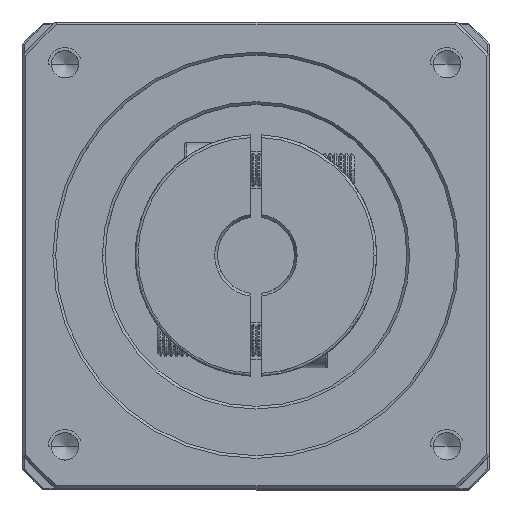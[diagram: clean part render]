
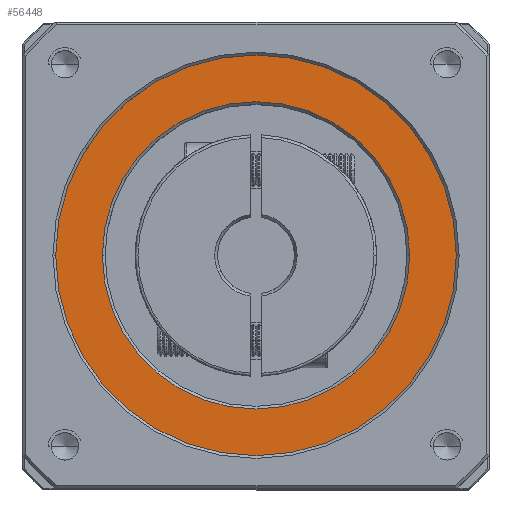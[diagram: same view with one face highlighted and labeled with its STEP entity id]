
A CAD part, top view. The second image highlights one B-rep face of the part: STEP entity #56448.
In plain terms, the highlighted planar face has unit normal (0, 0, 1).
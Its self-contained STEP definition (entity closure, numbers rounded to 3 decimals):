
#2205 = EDGE_LOOP ( 'NONE', ( #43949, #49746 ) ) ;
#4005 = VERTEX_POINT ( 'NONE', #27573 ) ;
#4152 = AXIS2_PLACEMENT_3D ( 'NONE', #48968, #109574, #57785 ) ;
#9014 = EDGE_LOOP ( 'NONE', ( #78474, #110691 ) ) ;
#11558 = EDGE_CURVE ( 'NONE', #4005, #73613, #16682, .T. ) ;
#16682 = CIRCLE ( 'NONE', #100747, 28. ) ;
#17385 = CARTESIAN_POINT ( 'NONE',  ( 45.088, 7.351, 102.5 ) ) ;
#25120 = CIRCLE ( 'NONE', #47801, 28. ) ;
#26186 = DIRECTION ( 'NONE',  ( 1., 0., 0. ) ) ;
#27573 = CARTESIAN_POINT ( 'NONE',  ( 17.088, 7.351, 102.5 ) ) ;
#28977 = FACE_BOUND ( 'NONE', #9014, .T. ) ;
#31882 = CARTESIAN_POINT ( 'NONE',  ( 45.088, 7.351, 102.5 ) ) ;
#31931 = EDGE_CURVE ( 'NONE', #73613, #4005, #25120, .T. ) ;
#33531 = CIRCLE ( 'NONE', #61595, 36.5 ) ;
#34884 = CARTESIAN_POINT ( 'NONE',  ( 45.088, 7.351, 102.5 ) ) ;
#38275 = DIRECTION ( 'NONE',  ( 0., 0., 1. ) ) ;
#40614 = DIRECTION ( 'NONE',  ( 1., 0., 0. ) ) ;
#40952 = EDGE_CURVE ( 'NONE', #91878, #92353, #33531, .T. ) ;
#43621 = DIRECTION ( 'NONE',  ( 1., 0., 0. ) ) ;
#43949 = ORIENTED_EDGE ( 'NONE', *, *, #64201, .T. ) ;
#47801 = AXIS2_PLACEMENT_3D ( 'NONE', #17385, #78369, #26186 ) ;
#48968 = CARTESIAN_POINT ( 'NONE',  ( 45.088, 7.351, 102.5 ) ) ;
#49746 = ORIENTED_EDGE ( 'NONE', *, *, #40952, .T. ) ;
#52120 = FACE_OUTER_BOUND ( 'NONE', #2205, .T. ) ;
#56448 = ADVANCED_FACE ( 'NONE', ( #52120, #28977 ), #63826, .T. ) ;
#57785 = DIRECTION ( 'NONE',  ( 1., 0., 0. ) ) ;
#61595 = AXIS2_PLACEMENT_3D ( 'NONE', #31882, #92674, #40614 ) ;
#63826 = PLANE ( 'NONE',  #84317 ) ;
#64201 = EDGE_CURVE ( 'NONE', #92353, #91878, #95488, .T. ) ;
#73613 = VERTEX_POINT ( 'NONE', #109789 ) ;
#78369 = DIRECTION ( 'NONE',  ( 0., 0., -1. ) ) ;
#78474 = ORIENTED_EDGE ( 'NONE', *, *, #31931, .T. ) ;
#84317 = AXIS2_PLACEMENT_3D ( 'NONE', #90383, #38275, #99061 ) ;
#90383 = CARTESIAN_POINT ( 'NONE',  ( 45.088, 7.351, 102.5 ) ) ;
#91878 = VERTEX_POINT ( 'NONE', #101777 ) ;
#92353 = VERTEX_POINT ( 'NONE', #99808 ) ;
#92674 = DIRECTION ( 'NONE',  ( 0., 0., 1. ) ) ;
#95488 = CIRCLE ( 'NONE', #4152, 36.5 ) ;
#95636 = DIRECTION ( 'NONE',  ( 0., 0., -1. ) ) ;
#99061 = DIRECTION ( 'NONE',  ( 1., 0., 0. ) ) ;
#99808 = CARTESIAN_POINT ( 'NONE',  ( 81.588, 7.351, 102.5 ) ) ;
#100747 = AXIS2_PLACEMENT_3D ( 'NONE', #34884, #95636, #43621 ) ;
#101777 = CARTESIAN_POINT ( 'NONE',  ( 8.588, 7.351, 102.5 ) ) ;
#109574 = DIRECTION ( 'NONE',  ( 0., 0., 1. ) ) ;
#109789 = CARTESIAN_POINT ( 'NONE',  ( 73.088, 7.351, 102.5 ) ) ;
#110691 = ORIENTED_EDGE ( 'NONE', *, *, #11558, .T. ) ;
